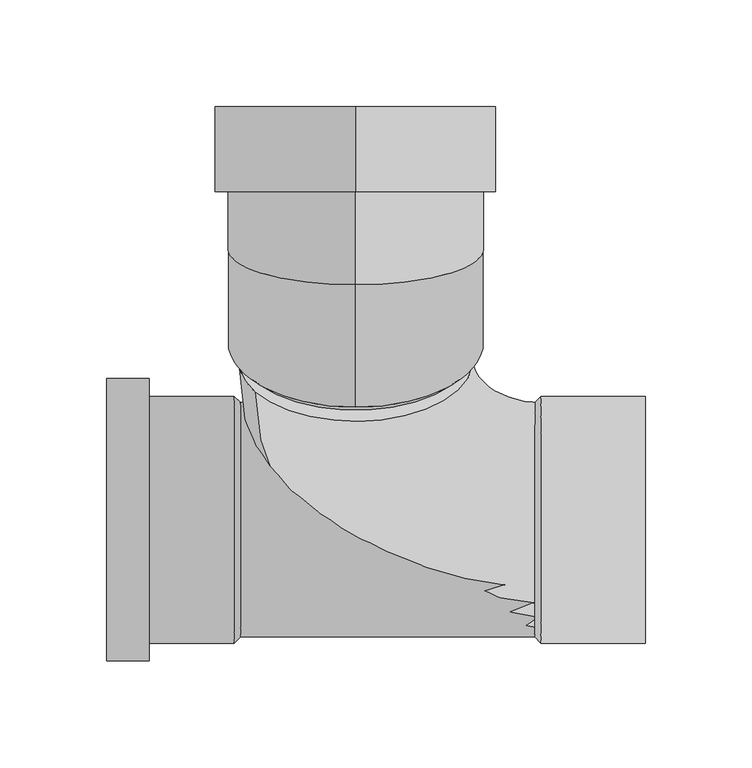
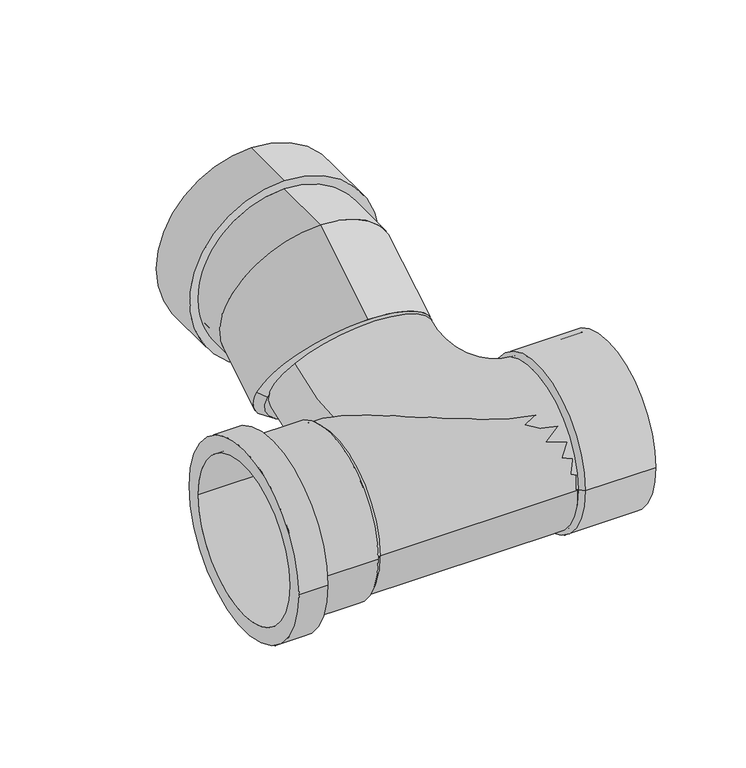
"""IFC4 building model written with IfcOpenShell, lengths in millimetres: pipe fitting geometry, Wavin_PipeAccessory_OsmaAccessoriesWcBranch : 31º."""

from ifc_helpers import new_model, si_unit, point, frame, origin, origin_2d, place, context, project, spatial, polyline, circle_curve, ellipse_curve, trimmed, segment, composite_curve, outline, extrude, source, transform, mapped, element, save
from ifc_brep_helpers import plane_surface, cylinder_surface, revolved_surface, advanced_brep


def pipe_fitting_f842854c(model_context):
    return source(origin(), model_context, "Body", "SolidModel", [
        advanced_brep(
        [(-54.1, -55.0, 0.0), (-54.1, 55.0, 0.0), (-117.0, 55.0, 0.0), (-117.0, -55.0, 0.0), (-97.0, -57.9, 0.0), (-97.0, 57.9, 0.0), (-57.0, 57.9, 0.0), (-57.0, -57.9, 0.0), (-117.0, -66.25, 0.0), (-117.0, 66.25, 0.0), (-97.0, 66.25, 0.0), (-97.0, -66.25, 0.0)],
        [
            (0, 1, circle_curve(frame((-54.1, 0.0, 0.0), z_axis=(1.0, 0.0, 0.0), x_axis=(0.0, 1.0000000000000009, 0.0)), 55.0)),
            (1, 2),
            (2, 3, circle_curve(frame((-117.0, 0.0, 0.0), z_axis=(-1.0, 0.0, 0.0), x_axis=(0.0, 1.0000000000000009, 0.0)), 55.0)),
            (3, 0),
            (4, 5, circle_curve(frame((-97.0, 0.0, 0.0), z_axis=(1.0, 0.0, 0.0), x_axis=(0.0, 1.0000000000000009, 0.0)), 57.9)),
            (5, 6),
            (6, 7, circle_curve(frame((-57.0, 0.0, 0.0), z_axis=(-1.0, 0.0, 0.0), x_axis=(0.0, 1.0000000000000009, 0.0)), 57.9)),
            (7, 4),
            (1, 0, circle_curve(frame((-54.1, 0.0, 0.0), z_axis=(1.0, 0.0, 0.0), x_axis=(0.0, -1.0000000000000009, 0.0)), 55.0)),
            (3, 2, circle_curve(frame((-117.0, 0.0, 0.0), z_axis=(-1.0, 0.0, 0.0), x_axis=(0.0, -1.0000000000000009, 0.0)), 55.0)),
            (5, 4, circle_curve(frame((-97.0, 0.0, 0.0), z_axis=(1.0, 0.0, 0.0), x_axis=(0.0, -1.0000000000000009, 0.0)), 57.9)),
            (7, 6, circle_curve(frame((-57.0, 0.0, 0.0), z_axis=(-1.0, 0.0, 0.0), x_axis=(0.0, -1.0000000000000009, 0.0)), 57.9)),
            (8, 9, circle_curve(frame((-117.0, 0.0, 0.0), z_axis=(1.0, 0.0, 0.0), x_axis=(0.0, 1.0000000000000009, 0.0)), 66.25)),
            (9, 10),
            (10, 11, circle_curve(frame((-97.0, 0.0, 0.0), z_axis=(-1.0, 0.0, 0.0), x_axis=(0.0, 1.0000000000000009, 0.0)), 66.25)),
            (11, 8),
            (10, 11, circle_curve(frame((-97.0, 0.0, 0.0), z_axis=(1.0, 0.0, 0.0), x_axis=(0.0, -1.0000000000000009, 0.0)), 66.25)),
            (9, 8, circle_curve(frame((-117.0, 0.0, 0.0), z_axis=(1.0, 0.0, 0.0), x_axis=(0.0, -1.0000000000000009, 0.0)), 66.25)),
            (6, 1),
            (0, 7),
        ],
        [
            revolved_surface(polyline([(-117.00000000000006, 55.00000000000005, 0.0), (-54.1, 55.00000000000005, 0.0)]), (-57.0, 0.0, 0.0), (-1.0000000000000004, 0.0, 0.0)),
            cylinder_surface(frame((-57.0, 0.0, 0.0), z_axis=(-1.0000000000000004, 0.0, 0.0), x_axis=(0.0, 1.0000000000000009, 0.0)), 57.9),
            revolved_surface(polyline([(-117.00000000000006, -55.00000000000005, 0.0), (-54.1, -55.00000000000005, 0.0)]), (-57.0, 0.0, 0.0), (-1.0000000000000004, 0.0, 0.0)),
            cylinder_surface(frame((-57.0, 0.0, 0.0), z_axis=(-1.0000000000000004, 0.0, 0.0), x_axis=(0.0, -1.0000000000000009, 0.0)), 57.9),
            cylinder_surface(frame((-57.0, 0.0, 0.0), z_axis=(-1.0000000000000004, 0.0, 0.0), x_axis=(0.0, 1.0000000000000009, 0.0)), 66.25),
            plane_surface(frame((-97.0, 0.0, 0.0), z_axis=(1.0, 0.0, 0.0), x_axis=(0.0, -1.0, 0.0))),
            cylinder_surface(frame((-57.0, 0.0, 0.0), z_axis=(-1.0000000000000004, 0.0, 0.0), x_axis=(0.0, -1.0000000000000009, 0.0)), 66.25),
            plane_surface(frame((-117.0, 0.0, 0.0), z_axis=(-1.0, 0.0, 0.0), x_axis=(0.0, -1.0, 0.0))),
            revolved_surface(polyline([(-54.1, 55.0, 0.0), (-57.0, 57.9, 0.0)]), (-57.0, 0.0, 0.0), (-1.0000000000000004, 0.0, 0.0)),
            revolved_surface(polyline([(-54.1, -55.0, 0.0), (-57.0, -57.9, 0.0)]), (-57.0, 0.0, 0.0), (-1.0000000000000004, 0.0, 0.0)),
        ],
        [
            (0, [[1, 2, 3, 4]]),
            (1, [[5, 6, 7, 8]]),
            (2, [[9, -4, 10, -2]]),
            (3, [[11, -8, 12, -6]]),
            (4, [[13, 14, 15, 16]]),
            (5, [[17, -15], [-11, -5]]),
            (6, [[18, -16, -17, -14]]),
            (7, [[-18, -13], [-10, -3]]),
            (8, [[-7, 19, -1, 20]]),
            (9, [[-12, -20, -9, -19]]),
        ],
    ),
        advanced_brep(
        [(87.0, 57.9, 0.0), (87.0, -57.9, 0.0), (84.1, -55.0, 0.0), (84.1, 55.0, 0.0), (136.0, 57.9, 0.0), (136.0, -57.9, 0.0), (136.0, -55.0, 0.0), (136.0, 55.0, 0.0)],
        [
            (0, 1, circle_curve(frame((87.0, 0.0, 0.0), z_axis=(-1.0, 0.0, 0.0), x_axis=(0.0, -1.0, 0.0)), 57.9)),
            (1, 2),
            (2, 3, circle_curve(frame((84.1, 0.0, 0.0), z_axis=(1.0, 0.0, 0.0), x_axis=(0.0, -1.0, 0.0)), 55.0)),
            (3, 0),
            (4, 5, circle_curve(frame((136.0, 0.0, 0.0), z_axis=(-1.0, 0.0, 0.0), x_axis=(0.0, -1.0, 0.0)), 57.9)),
            (5, 1),
            (0, 4),
            (2, 6),
            (6, 7, circle_curve(frame((136.0, 0.0, 0.0), z_axis=(1.0, 0.0, 0.0), x_axis=(0.0, -1.0, 0.0)), 55.0)),
            (7, 3),
            (1, 0, circle_curve(frame((87.0, 0.0, 0.0), z_axis=(-1.0, 0.0, 0.0), x_axis=(0.0, 1.0, 0.0)), 57.9)),
            (3, 2, circle_curve(frame((84.1, 0.0, 0.0), z_axis=(1.0, 0.0, 0.0), x_axis=(0.0, 1.0, 0.0)), 55.0)),
            (5, 4, circle_curve(frame((136.0, 0.0, 0.0), z_axis=(-1.0, 0.0, 0.0), x_axis=(0.0, 1.0, 0.0)), 57.9)),
            (6, 7, circle_curve(frame((136.0, 0.0, 0.0), z_axis=(-1.0, 0.0, 0.0), x_axis=(0.0, 1.0, 0.0)), 55.0)),
        ],
        [
            revolved_surface(polyline([(84.1, -55.0, 0.0), (87.0, -57.9, 0.0)]), (87.0, 0.0, 0.0), (1.0, 0.0, 0.0)),
            cylinder_surface(frame((87.0, 0.0, 0.0), z_axis=(1.0, 0.0, 0.0), x_axis=(0.0, -1.0, 0.0)), 57.9),
            revolved_surface(polyline([(136.0, -55.0, 0.0), (84.1, -55.0, 0.0)]), (87.0, 0.0, 0.0), (1.0, 0.0, 0.0)),
            revolved_surface(polyline([(84.1, 55.0, 0.0), (87.0, 57.9, 0.0)]), (87.0, 0.0, 0.0), (1.0, 0.0, 0.0)),
            cylinder_surface(frame((87.0, 0.0, 0.0), z_axis=(1.0, 0.0, 0.0), x_axis=(0.0, 1.0, 0.0)), 57.9),
            plane_surface(frame((136.0, 0.0, 0.0), z_axis=(1.0, 0.0, 0.0), x_axis=(0.0, 1.0, 0.0))),
            revolved_surface(polyline([(136.0, 55.0, 0.0), (84.1, 55.0, 0.0)]), (87.0, 0.0, 0.0), (1.0, 0.0, 0.0)),
        ],
        [
            (0, [[1, 2, 3, 4]]),
            (1, [[5, 6, -1, 7]]),
            (2, [[-3, 8, 9, 10]]),
            (3, [[11, -4, 12, -2]]),
            (4, [[13, -7, -11, -6]]),
            (5, [[-13, -5], [14, -9]]),
            (6, [[-12, -10, -14, -8]]),
        ],
    ),
        advanced_brep(
        [(87.0, -55.0, 0.0), (87.0, 55.0, 0.0), (47.1442015, 89.1630872, 20.5272537), (-47.1442015, 59.9840231, 69.0893713)],
        [
            (0, 1, circle_curve(frame((87.0, 0.0, 0.0), z_axis=(1.0000000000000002, 0.0, 0.0), x_axis=(0.0, 1.0, 0.0)), 55.0)),
            (1, 0, circle_curve(frame((87.0, 0.0, 0.0), z_axis=(1.0000000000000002, 0.0, 0.0), x_axis=(0.0, 1.0, 0.0)), 55.0)),
            (2, 1, circle_curve(frame((87.0, 89.1630872, 20.5272537), z_axis=(0.0, -0.5150380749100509, 0.8571673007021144), x_axis=(0.0, -0.8571673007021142, -0.5150380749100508)), 39.8557985)),
            (0, 3, circle_curve(frame((87.0, 59.9840231, 69.0893713), z_axis=(0.0, 0.5150380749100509, -0.8571673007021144), x_axis=(0.0, -0.8571673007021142, -0.5150380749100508)), 134.1442015)),
            (3, 2, circle_curve(frame((0.0, 74.5735552, 44.8083125), z_axis=(0.0, -0.8571673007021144, -0.5150380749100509), x_axis=(0.8571673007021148, 0.26526421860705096, -0.44147379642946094)), 55.0)),
            (2, 3, circle_curve(frame((0.0, 74.5735552, 44.8083125), z_axis=(0.0, -0.8571673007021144, -0.5150380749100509), x_axis=(0.8571673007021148, 0.26526421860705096, -0.44147379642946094)), 55.0)),
        ],
        [
            plane_surface(frame((87.0, 100.3254589, 1.9499475), z_axis=(1.0000000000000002, 0.0, 0.0), x_axis=(0.0, -0.8571673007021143, -0.5150380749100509))),
            revolved_surface(trimmed(ellipse_curve(frame((87.0, 0.0, 0.0), z_axis=(1.0000000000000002, 0.0, 0.0), x_axis=(0.0, 1.0, 0.0)), 55.0, 55.0), [point((87.0, -55.0, 0.0))], [point((87.0, 55.0, 0.0))], True, "CARTESIAN"), (87.0, 100.3254589, 1.9499475), (0.0, 0.5150380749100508, -0.8571673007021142)),
            revolved_surface(trimmed(ellipse_curve(frame((87.0, 0.0, 0.0), z_axis=(1.0000000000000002, 0.0, 0.0), x_axis=(0.0, 1.0, 0.0)), 55.0, 55.0), [point((87.0, 55.0, 0.0))], [point((87.0, -55.0, 0.0))], True, "CARTESIAN"), (87.0, 100.3254589, 1.9499475), (0.0, 0.5150380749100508, -0.8571673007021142)),
            plane_surface(frame((87.0, 100.3254589, 1.9499475), z_axis=(0.0, 0.8571673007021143, 0.5150380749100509), x_axis=(-1.0, 0.0, 0.0))),
        ],
        [
            (0, [[1, 2]]),
            (1, [[3, -1, 4, 5]]),
            (2, [[-4, -2, -3, 6]]),
            (3, [[-6, -5]]),
        ],
    ),
        advanced_brep(
        [(0.0, 194.0030799, -2.0), (0.0, 194.0030799, 130.0), (0.0, 194.0030799, 120.5), (0.0, 194.0030799, 7.5), (0.0, 110.3710866, 124.0), (0.0, 143.6500318, 4.0), (0.0, 154.0030799, 4.0), (0.0, 154.0030799, 124.0), (0.0, 52.8431186, 89.4337096), (60.0, 83.7454031, 38.0036715), (0.0, 114.6476876, -13.4263665), (-60.0, 83.7454031, 38.0036715), (0.0, 154.0030799, -2.0), (0.0, 154.0030799, 130.0), (0.0, 124.0030799, 120.5), (0.0, 124.0030799, 7.5), (55.0, 79.4595666, 35.4284811), (-55.0, 79.4595666, 35.4284811)],
        [
            (0, 1, circle_curve(frame((0.0, 194.0030799, 64.0), z_axis=(0.0, 1.0, 0.0), x_axis=(0.0, 0.0, 1.0)), 66.0)),
            (1, 0, circle_curve(frame((0.0, 194.0030799, 64.0), z_axis=(0.0, 1.0, 0.0), x_axis=(0.0, 0.0, 1.0)), 66.0)),
            (2, 3, circle_curve(frame((0.0, 194.0030799, 64.0), z_axis=(0.0, -1.0, 0.0), x_axis=(0.0, 0.0, -1.0)), 56.5)),
            (3, 2, circle_curve(frame((0.0, 194.0030799, 64.0), z_axis=(0.0, -1.0, 0.0), x_axis=(0.0, 0.0, -1.0)), 56.5)),
            (4, 5, ellipse_curve(frame((0.0, 127.0105592, 64.0), z_axis=(0.0, 0.9636304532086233, 0.26723837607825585), x_axis=(0.0, 0.26723837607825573, -0.9636304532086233)), 62.2645328, 60.0)),
            (5, 6),
            (6, 7, circle_curve(frame((0.0, 154.0030799, 64.0), z_axis=(0.0, -1.0, 0.0), x_axis=(0.0, 0.0, -1.0)), 60.0)),
            (7, 4),
            (5, 4, ellipse_curve(frame((0.0, 127.0105592, 64.0), z_axis=(0.0, 0.9636304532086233, 0.26723837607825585), x_axis=(0.0, 0.26723837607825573, -0.9636304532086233)), 62.2645328, 60.0)),
            (7, 6, circle_curve(frame((0.0, 154.0030799, 64.0), z_axis=(0.0, -1.0, 0.0), x_axis=(0.0, 0.0, -1.0)), 60.0)),
            (4, 8),
            (8, 9, circle_curve(frame((0.0, 83.7454031, 38.0036715), z_axis=(0.0, 0.8571673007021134, 0.5150380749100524), x_axis=(0.0, 0.5150380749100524, -0.8571673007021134)), 60.0)),
            (9, 10, circle_curve(frame((0.0, 83.7454031, 38.0036715), z_axis=(0.0, 0.8571673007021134, 0.5150380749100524), x_axis=(0.0, 0.5150380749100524, -0.8571673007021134)), 60.0)),
            (10, 5),
            (10, 11, circle_curve(frame((0.0, 83.7454031, 38.0036715), z_axis=(0.0, 0.8571673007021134, 0.5150380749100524), x_axis=(0.0, 0.5150380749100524, -0.8571673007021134)), 60.0)),
            (11, 8, circle_curve(frame((0.0, 83.7454031, 38.0036715), z_axis=(0.0, 0.8571673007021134, 0.5150380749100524), x_axis=(0.0, 0.5150380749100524, -0.8571673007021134)), 60.0)),
            (12, 13, circle_curve(frame((0.0, 154.0030799, 64.0), z_axis=(0.0, -1.0, 0.0), x_axis=(0.0, 0.0, 1.0)), 66.0)),
            (13, 12, circle_curve(frame((0.0, 154.0030799, 64.0), z_axis=(0.0, -1.0, 0.0), x_axis=(0.0, 0.0, 1.0)), 66.0)),
            (13, 1),
            (0, 12),
            (14, 15, circle_curve(frame((0.0, 124.0030799, 64.0), z_axis=(0.0, 1.0, 0.0), x_axis=(0.0, 0.0, -1.0)), 56.5)),
            (15, 14, circle_curve(frame((0.0, 124.0030799, 64.0), z_axis=(0.0, 1.0, 0.0), x_axis=(0.0, 0.0, -1.0)), 56.5)),
            (15, 3),
            (2, 14),
            (9, 16),
            (16, 17, circle_curve(frame((0.0, 79.4595666, 35.4284811), z_axis=(0.0, 0.8571673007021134, 0.5150380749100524), x_axis=(-1.0, 0.0, 0.0)), 55.0)),
            (17, 11),
            (17, 16, circle_curve(frame((0.0, 79.4595666, 35.4284811), z_axis=(0.0, 0.8571673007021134, 0.5150380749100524), x_axis=(1.0, 0.0, 0.0)), 55.0)),
        ],
        [
            plane_surface(frame((0.0, 194.0030799, 64.0), z_axis=(0.0, 1.0, 0.0), x_axis=(1.0, 0.0, 0.0))),
            cylinder_surface(frame((0.0, 194.0030799, 64.0), z_axis=(0.0, 1.0, 0.0), x_axis=(0.0, 0.0, -1.0)), 60.0),
            cylinder_surface(frame((0.0, 127.0105592, 64.0), z_axis=(0.0, 0.8571673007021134, 0.5150380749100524), x_axis=(0.0, 0.5150380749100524, -0.8571673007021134)), 60.0),
            plane_surface(frame((0.0, 154.0030799, 130.0), z_axis=(0.0, -1.0, 0.0), x_axis=(-1.0, 0.0, 0.0))),
            cylinder_surface(frame((0.0, 154.0030799, 64.0), z_axis=(0.0, 1.0, 0.0), x_axis=(0.0, 0.0, 1.0)), 66.0),
            plane_surface(frame((0.0, 124.0030799, 7.5), z_axis=(0.0, 1.0, 0.0), x_axis=(1.0, 0.0, 0.0))),
            revolved_surface(polyline([(0.0, 124.0030799, 7.5), (0.0, 194.0030799, 7.5)]), (0.0, 194.0030799, 64.0), (0.0, -1.0, 0.0)),
            revolved_surface(polyline([(-60.0, 83.7454031, 38.0036715), (-55.0, 79.4595666, 35.4284811)]), (0.0, 79.4595666, 35.4284811), (0.0, -0.8571673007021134, -0.5150380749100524)),
            revolved_surface(polyline([(60.0, 83.7454031, 38.0036715), (55.0, 79.4595666, 35.4284811)]), (0.0, 79.4595666, 35.4284811), (0.0, -0.8571673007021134, -0.5150380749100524)),
            plane_surface(frame((0.0, 79.4595666, 35.4284811), z_axis=(0.0, -0.8571673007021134, -0.5150380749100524), x_axis=(1.0, 0.0, 0.0))),
        ],
        [
            (0, [[1, 2], [3, 4]]),
            (1, [[5, 6, 7, 8]]),
            (1, [[9, -8, 10, -6]]),
            (2, [[-5, 11, 12, 13, 14]]),
            (2, [[-9, -14, 15, 16, -11]]),
            (3, [[17, 18], [-7, -10]]),
            (4, [[-18, 19, -1, 20]]),
            (4, [[-17, -20, -2, -19]]),
            (5, [[21, 22]]),
            (6, [[-22, 23, -3, 24]]),
            (6, [[-21, -24, -4, -23]]),
            (7, [[25, 26, 27, -15, -13]]),
            (8, [[-25, -12, -16, -27, 28]]),
            (9, [[-26, -28]]),
        ],
    ),
        extrude(outline(composite_curve([segment(trimmed(circle_curve(origin_2d(), 55.0), [point((-55.0, 0.0))], [point((55.0, 0.0))], False, "CARTESIAN"), True, "CONTINUOUS"), segment(trimmed(circle_curve(origin_2d(), 55.0), [point((55.0, 0.0))], [point((-55.0, 0.0))], False, "CARTESIAN"), True, "CONTINUOUS")], self_intersect=False)), frame((-57.0, 0.0, 0.0), z_axis=(1.0, 0.0, 0.0), x_axis=(0.0, 1.0, 0.0)), (0.0, 0.0, 1.0), 144.0),
    ])


if __name__ == "__main__":
    model = new_model("IFC4")
    model_context = context("Model", 3, world=origin())
    ifc_project = project(units=[si_unit("LENGTHUNIT", "METRE", prefix="MILLI")], contexts=[model_context])
    site = spatial("IfcSite", under=ifc_project)
    building = spatial("IfcBuilding", under=site)
    placement = place(None, origin())
    pipe_fitting_shape = pipe_fitting_f842854c(model_context)
    element("IfcPipeFitting", 1, ObjectType="Wavin_PipeAccessory_OsmaAccessoriesWcBranch : 31º", at=placement, inside=building, context=model_context, shape_type="MappedRepresentation", body=[
        mapped(pipe_fitting_shape, transform((0.0, 0.0, 0.0), x_axis=(1.0, 0.0, 0.0), y_axis=(0.0, 1.0, 0.0), z_axis=(0.0, 0.0, 1.0))),
    ])
    save(model, "model.ifc")
